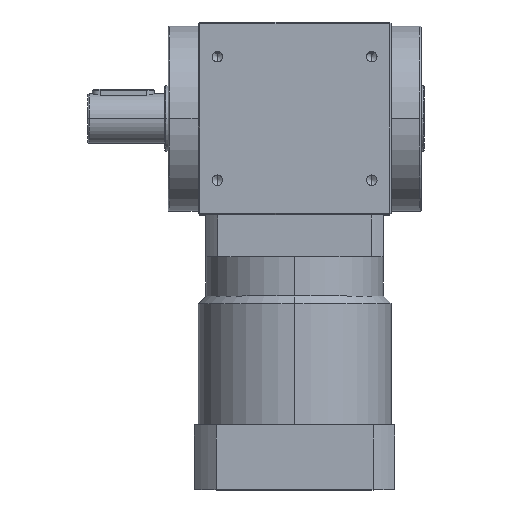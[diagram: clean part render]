
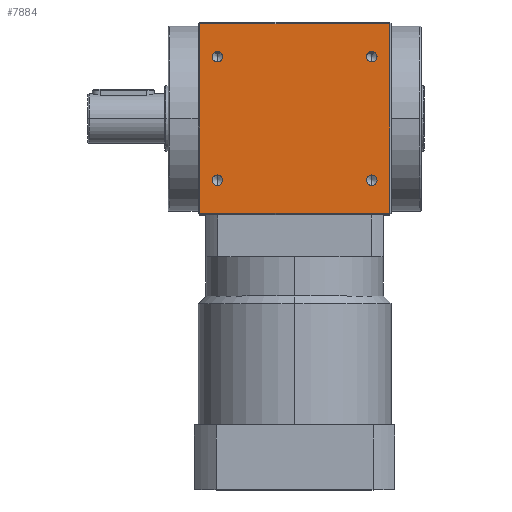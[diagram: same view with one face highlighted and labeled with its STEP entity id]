
A CAD part, top view. The second image highlights one B-rep face of the part: STEP entity #7884.
In plain terms, the highlighted planar face has unit normal (0, 0, 1).
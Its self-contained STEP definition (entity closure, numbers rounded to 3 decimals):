
#8 = VERTEX_POINT ( 'NONE', #6267 ) ;
#77 = ORIENTED_EDGE ( 'NONE', *, *, #594, .F. ) ;
#103 = AXIS2_PLACEMENT_3D ( 'NONE', #3055, #7934, #4525 ) ;
#153 = FACE_BOUND ( 'NONE', #221, .T. ) ;
#221 = EDGE_LOOP ( 'NONE', ( #3262, #77 ) ) ;
#268 = CIRCLE ( 'NONE', #427, 3.4 ) ;
#376 = FACE_BOUND ( 'NONE', #871, .T. ) ;
#383 = DIRECTION ( 'NONE',  ( -1., 0., 0. ) ) ;
#427 = AXIS2_PLACEMENT_3D ( 'NONE', #3297, #571, #1531 ) ;
#436 = VERTEX_POINT ( 'NONE', #3970 ) ;
#531 = DIRECTION ( 'NONE',  ( 0., 0., 1. ) ) ;
#571 = DIRECTION ( 'NONE',  ( 0., 0., 1. ) ) ;
#594 = EDGE_CURVE ( 'NONE', #4023, #6592, #6569, .T. ) ;
#755 = LINE ( 'NONE', #5597, #2523 ) ;
#832 = AXIS2_PLACEMENT_3D ( 'NONE', #8231, #4405, #383 ) ;
#871 = EDGE_LOOP ( 'NONE', ( #2565, #3654 ) ) ;
#937 = AXIS2_PLACEMENT_3D ( 'NONE', #7512, #7560, #7575 ) ;
#1339 = CARTESIAN_POINT ( 'NONE',  ( 50., -36.6, 62.5 ) ) ;
#1409 = CARTESIAN_POINT ( 'NONE',  ( -50., 36.6, 62.5 ) ) ;
#1531 = DIRECTION ( 'NONE',  ( 0., -1., 0. ) ) ;
#1743 = VERTEX_POINT ( 'NONE', #7827 ) ;
#1812 = CIRCLE ( 'NONE', #2912, 3.4 ) ;
#1814 = CARTESIAN_POINT ( 'NONE',  ( 61.5, -61.5, 62.5 ) ) ;
#1931 = FACE_OUTER_BOUND ( 'NONE', #2684, .T. ) ;
#1934 = ORIENTED_EDGE ( 'NONE', *, *, #3907, .F. ) ;
#2253 = ORIENTED_EDGE ( 'NONE', *, *, #3917, .F. ) ;
#2325 = VECTOR ( 'NONE', #8271, 1000. ) ;
#2442 = DIRECTION ( 'NONE',  ( 0., -1., 0. ) ) ;
#2452 = DIRECTION ( 'NONE',  ( 0., 0., 1. ) ) ;
#2457 = CARTESIAN_POINT ( 'NONE',  ( 61.5, 0., 62.5 ) ) ;
#2471 = AXIS2_PLACEMENT_3D ( 'NONE', #8403, #8389, #8372 ) ;
#2480 = CARTESIAN_POINT ( 'NONE',  ( 50., 40., 62.5 ) ) ;
#2523 = VECTOR ( 'NONE', #5611, 1000. ) ;
#2565 = ORIENTED_EDGE ( 'NONE', *, *, #3690, .F. ) ;
#2575 = DIRECTION ( 'NONE',  ( 0., -1., 0. ) ) ;
#2621 = CIRCLE ( 'NONE', #103, 3.4 ) ;
#2684 = EDGE_LOOP ( 'NONE', ( #8203, #2253, #1934, #3926 ) ) ;
#2882 = VECTOR ( 'NONE', #2575, 1000. ) ;
#2912 = AXIS2_PLACEMENT_3D ( 'NONE', #8476, #8467, #8436 ) ;
#3055 = CARTESIAN_POINT ( 'NONE',  ( 50., -40., 62.5 ) ) ;
#3100 = AXIS2_PLACEMENT_3D ( 'NONE', #3568, #531, #5885 ) ;
#3262 = ORIENTED_EDGE ( 'NONE', *, *, #3631, .F. ) ;
#3297 = CARTESIAN_POINT ( 'NONE',  ( -50., -40., 62.5 ) ) ;
#3395 = LINE ( 'NONE', #6038, #6730 ) ;
#3529 = EDGE_LOOP ( 'NONE', ( #4034, #4504 ) ) ;
#3568 = CARTESIAN_POINT ( 'NONE',  ( -50., 40., 62.5 ) ) ;
#3575 = EDGE_CURVE ( 'NONE', #6497, #6951, #2621, .T. ) ;
#3615 = EDGE_CURVE ( 'NONE', #4995, #4492, #1812, .T. ) ;
#3631 = EDGE_CURVE ( 'NONE', #6592, #4023, #5382, .T. ) ;
#3654 = ORIENTED_EDGE ( 'NONE', *, *, #4533, .F. ) ;
#3690 = EDGE_CURVE ( 'NONE', #8186, #7303, #4568, .T. ) ;
#3750 = CARTESIAN_POINT ( 'NONE',  ( -50., 43.4, 62.5 ) ) ;
#3907 = EDGE_CURVE ( 'NONE', #436, #1743, #3395, .T. ) ;
#3917 = EDGE_CURVE ( 'NONE', #1743, #8, #755, .T. ) ;
#3926 = ORIENTED_EDGE ( 'NONE', *, *, #4948, .T. ) ;
#3970 = CARTESIAN_POINT ( 'NONE',  ( -61.5, -61.5, 62.5 ) ) ;
#4023 = VERTEX_POINT ( 'NONE', #4267 ) ;
#4034 = ORIENTED_EDGE ( 'NONE', *, *, #3615, .F. ) ;
#4115 = LINE ( 'NONE', #8477, #2325 ) ;
#4178 = EDGE_CURVE ( 'NONE', #8, #5622, #7886, .T. ) ;
#4267 = CARTESIAN_POINT ( 'NONE',  ( 50., 43.4, 62.5 ) ) ;
#4405 = DIRECTION ( 'NONE',  ( 0., 0., -1. ) ) ;
#4492 = VERTEX_POINT ( 'NONE', #6926 ) ;
#4502 = EDGE_CURVE ( 'NONE', #4492, #4995, #268, .T. ) ;
#4504 = ORIENTED_EDGE ( 'NONE', *, *, #4502, .F. ) ;
#4523 = EDGE_LOOP ( 'NONE', ( #4562, #6278 ) ) ;
#4525 = DIRECTION ( 'NONE',  ( 0., -1., 0. ) ) ;
#4533 = EDGE_CURVE ( 'NONE', #7303, #8186, #4809, .T. ) ;
#4562 = ORIENTED_EDGE ( 'NONE', *, *, #3575, .F. ) ;
#4568 = CIRCLE ( 'NONE', #6527, 3.4 ) ;
#4729 = CIRCLE ( 'NONE', #937, 3.4 ) ;
#4809 = CIRCLE ( 'NONE', #3100, 3.4 ) ;
#4830 = CARTESIAN_POINT ( 'NONE',  ( 50., 36.6, 62.5 ) ) ;
#4948 = EDGE_CURVE ( 'NONE', #436, #5622, #4115, .T. ) ;
#4995 = VERTEX_POINT ( 'NONE', #7715 ) ;
#5382 = CIRCLE ( 'NONE', #2471, 3.4 ) ;
#5499 = FACE_BOUND ( 'NONE', #4523, .T. ) ;
#5597 = CARTESIAN_POINT ( 'NONE',  ( 0., 61.5, 62.5 ) ) ;
#5611 = DIRECTION ( 'NONE',  ( 1., 0., 0. ) ) ;
#5622 = VERTEX_POINT ( 'NONE', #1814 ) ;
#5692 = PLANE ( 'NONE',  #832 ) ;
#5885 = DIRECTION ( 'NONE',  ( 0., -1., 0. ) ) ;
#5932 = EDGE_CURVE ( 'NONE', #6951, #6497, #4729, .T. ) ;
#6017 = DIRECTION ( 'NONE',  ( 0., 1., 0. ) ) ;
#6038 = CARTESIAN_POINT ( 'NONE',  ( -61.5, 0., 62.5 ) ) ;
#6194 = CARTESIAN_POINT ( 'NONE',  ( 50., -43.4, 62.5 ) ) ;
#6267 = CARTESIAN_POINT ( 'NONE',  ( 61.5, 61.5, 62.5 ) ) ;
#6278 = ORIENTED_EDGE ( 'NONE', *, *, #5932, .F. ) ;
#6497 = VERTEX_POINT ( 'NONE', #6194 ) ;
#6527 = AXIS2_PLACEMENT_3D ( 'NONE', #7915, #7904, #7891 ) ;
#6569 = CIRCLE ( 'NONE', #8081, 3.4 ) ;
#6592 = VERTEX_POINT ( 'NONE', #4830 ) ;
#6730 = VECTOR ( 'NONE', #6017, 1000. ) ;
#6926 = CARTESIAN_POINT ( 'NONE',  ( -50., -36.6, 62.5 ) ) ;
#6951 = VERTEX_POINT ( 'NONE', #1339 ) ;
#7029 = FACE_BOUND ( 'NONE', #3529, .T. ) ;
#7303 = VERTEX_POINT ( 'NONE', #3750 ) ;
#7512 = CARTESIAN_POINT ( 'NONE',  ( 50., -40., 62.5 ) ) ;
#7560 = DIRECTION ( 'NONE',  ( 0., 0., 1. ) ) ;
#7575 = DIRECTION ( 'NONE',  ( 0., -1., 0. ) ) ;
#7715 = CARTESIAN_POINT ( 'NONE',  ( -50., -43.4, 62.5 ) ) ;
#7827 = CARTESIAN_POINT ( 'NONE',  ( -61.5, 61.5, 62.5 ) ) ;
#7884 = ADVANCED_FACE ( 'NONE', ( #1931, #376, #153, #7029, #5499 ), #5692, .F. ) ;
#7886 = LINE ( 'NONE', #2457, #2882 ) ;
#7891 = DIRECTION ( 'NONE',  ( 0., -1., 0. ) ) ;
#7904 = DIRECTION ( 'NONE',  ( 0., 0., 1. ) ) ;
#7915 = CARTESIAN_POINT ( 'NONE',  ( -50., 40., 62.5 ) ) ;
#7934 = DIRECTION ( 'NONE',  ( 0., 0., 1. ) ) ;
#8081 = AXIS2_PLACEMENT_3D ( 'NONE', #2480, #2452, #2442 ) ;
#8186 = VERTEX_POINT ( 'NONE', #1409 ) ;
#8203 = ORIENTED_EDGE ( 'NONE', *, *, #4178, .F. ) ;
#8231 = CARTESIAN_POINT ( 'NONE',  ( 0., 0., 62.5 ) ) ;
#8271 = DIRECTION ( 'NONE',  ( 1., 0., 0. ) ) ;
#8372 = DIRECTION ( 'NONE',  ( 0., -1., 0. ) ) ;
#8389 = DIRECTION ( 'NONE',  ( 0., 0., 1. ) ) ;
#8403 = CARTESIAN_POINT ( 'NONE',  ( 50., 40., 62.5 ) ) ;
#8436 = DIRECTION ( 'NONE',  ( 0., -1., 0. ) ) ;
#8467 = DIRECTION ( 'NONE',  ( 0., 0., 1. ) ) ;
#8476 = CARTESIAN_POINT ( 'NONE',  ( -50., -40., 62.5 ) ) ;
#8477 = CARTESIAN_POINT ( 'NONE',  ( 0., -61.5, 62.5 ) ) ;
